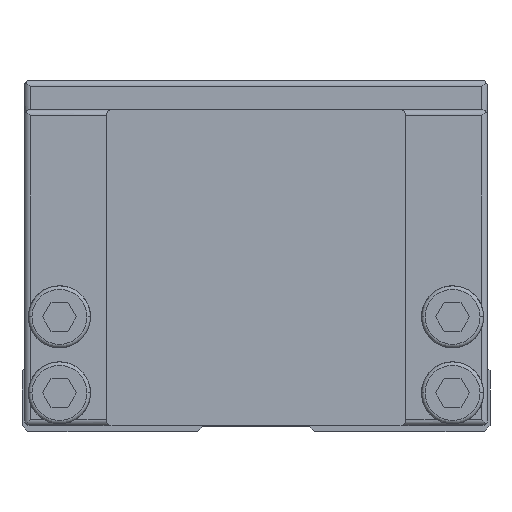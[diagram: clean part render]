
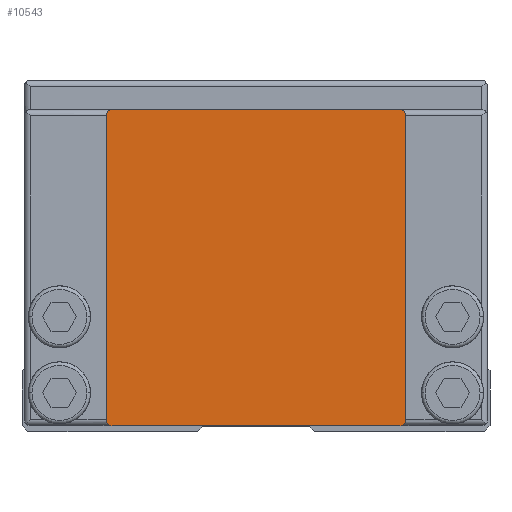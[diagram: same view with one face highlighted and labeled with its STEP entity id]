
A CAD part, front view. The second image highlights one B-rep face of the part: STEP entity #10543.
In plain terms, the highlighted planar face has unit normal (0, -1, 0).
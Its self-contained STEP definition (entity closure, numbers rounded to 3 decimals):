
#4115=EDGE_CURVE('',#7853,#4653,#12255,.T.);
#4233=EDGE_CURVE('',#10253,#7033,#12380,.T.);
#4653=VERTEX_POINT('',#12847);
#5169=VERTEX_POINT('',#13409);
#5447=EDGE_CURVE('',#7947,#5511,#13715,.T.);
#5511=VERTEX_POINT('',#13782);
#7033=VERTEX_POINT('',#15482);
#7853=VERTEX_POINT('',#16389);
#7919=EDGE_CURVE('',#5169,#7947,#16466,.T.);
#7947=VERTEX_POINT('',#16498);
#8651=EDGE_CURVE('',#7033,#7853,#17289,.T.);
#8983=EDGE_CURVE('',#5511,#10253,#17658,.T.);
#10189=EDGE_CURVE('',#4653,#10673,#18987,.T.);
#10253=VERTEX_POINT('',#19056);
#10543=ADVANCED_FACE('',(#19379),#19380,.T.);
#10673=VERTEX_POINT('',#19519);
#11599=EDGE_CURVE('',#10673,#5169,#20549,.T.);
#12255=CIRCLE('',#21294,0.5);
#12380=CIRCLE('',#21468,0.5);
#12847=CARTESIAN_POINT('',(12.8,0.0,27.0));
#13409=CARTESIAN_POINT('',(12.3,0.0,0.5));
#13715=CIRCLE('',#23539,0.5);
#13782=CARTESIAN_POINT('',(-12.8,0.0,1.0));
#15482=CARTESIAN_POINT('',(-12.3,0.0,27.5));
#16389=CARTESIAN_POINT('',(12.3,0.0,27.5));
#16466=LINE('',#27457,#27458);
#16498=CARTESIAN_POINT('',(-12.3,0.0,0.5));
#17289=LINE('',#28684,#28685);
#17658=LINE('',#29198,#29199);
#18987=LINE('',#31043,#31044);
#19056=CARTESIAN_POINT('',(-12.8,0.0,27.0));
#19379=FACE_OUTER_BOUND('',#31656,.T.);
#19380=PLANE('',#31657);
#19519=CARTESIAN_POINT('',(12.8,0.0,1.0));
#20549=CIRCLE('',#33383,0.5);
#21294=AXIS2_PLACEMENT_3D('',#34344,#34345,#34346);
#21468=AXIS2_PLACEMENT_3D('',#34463,#34464,#34465);
#23539=AXIS2_PLACEMENT_3D('',#35969,#35970,#35971);
#27457=CARTESIAN_POINT('',(-12.3,0.0,0.5));
#27458=VECTOR('',#39123,1.0);
#28684=CARTESIAN_POINT('',(12.3,0.0,27.5));
#28685=VECTOR('',#40070,1.0);
#29198=CARTESIAN_POINT('',(-12.8,0.0,27.0));
#29199=VECTOR('',#40519,1.0);
#31043=CARTESIAN_POINT('',(12.8,0.0,1.0));
#31044=VECTOR('',#42079,1.0);
#31656=EDGE_LOOP('',(#42550,#42551,#42552,#42553,#42554,#42555,#42556,#42557));
#31657=AXIS2_PLACEMENT_3D('',#42558,#42559,#42560);
#33383=AXIS2_PLACEMENT_3D('',#43933,#43934,#43935);
#34344=CARTESIAN_POINT('',(12.3,0.0,27.0));
#34345=DIRECTION('',(-0.0,1.0,0.0));
#34346=DIRECTION('',(1.0,0.0,0.));
#34463=CARTESIAN_POINT('',(-12.3,0.0,27.0));
#34464=DIRECTION('',(0.0,1.0,-0.0));
#34465=DIRECTION('',(0.,0.0,1.0));
#35969=CARTESIAN_POINT('',(-12.3,0.0,1.));
#35970=DIRECTION('',(0.0,1.0,-0.0));
#35971=DIRECTION('',(-1.0,0.0,0.));
#39123=DIRECTION('',(-1.0,0.0,-0.0));
#40070=DIRECTION('',(1.0,0.0,0.0));
#40519=DIRECTION('',(0.0,0.0,1.0));
#42079=DIRECTION('',(-0.0,0.0,-1.0));
#42550=ORIENTED_EDGE('',*,*,#8983,.F.);
#42551=ORIENTED_EDGE('',*,*,#5447,.F.);
#42552=ORIENTED_EDGE('',*,*,#7919,.F.);
#42553=ORIENTED_EDGE('',*,*,#11599,.F.);
#42554=ORIENTED_EDGE('',*,*,#10189,.F.);
#42555=ORIENTED_EDGE('',*,*,#4115,.F.);
#42556=ORIENTED_EDGE('',*,*,#8651,.F.);
#42557=ORIENTED_EDGE('',*,*,#4233,.F.);
#42558=CARTESIAN_POINT('',(0.,0.0,14.0));
#42559=DIRECTION('',(0.0,-1.0,0.0));
#42560=DIRECTION('',(1.0,0.0,0.0));
#43933=CARTESIAN_POINT('',(12.3,0.0,1.));
#43934=DIRECTION('',(-0.0,1.0,0.0));
#43935=DIRECTION('',(0.0,0.0,-1.0));
